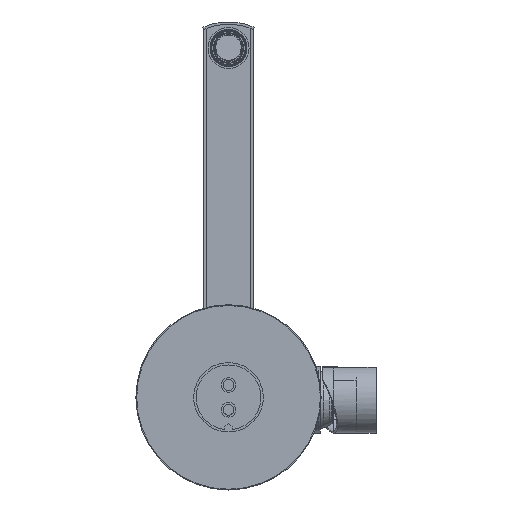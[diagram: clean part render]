
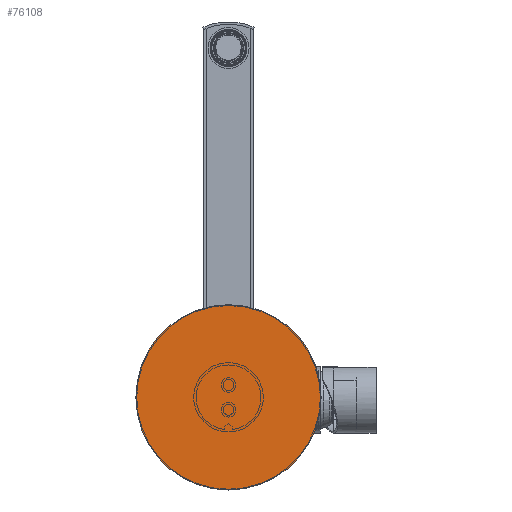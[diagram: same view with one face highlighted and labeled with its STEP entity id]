
A CAD part, top view. The second image highlights one B-rep face of the part: STEP entity #76108.
In plain terms, the highlighted planar face has unit normal (0, 0, 1).
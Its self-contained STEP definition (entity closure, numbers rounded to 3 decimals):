
#19052=CARTESIAN_POINT('',(0.,0.,765.));
#19053=DIRECTION('',(0.,0.,-1.));
#19054=DIRECTION('',(-1.,0.,0.));
#19055=AXIS2_PLACEMENT_3D('',#19052,#19053,#19054);
#19057=CARTESIAN_POINT('',(0.,0.,765.));
#19058=DIRECTION('',(0.,0.,-1.));
#19059=DIRECTION('',(1.,0.,0.));
#19060=AXIS2_PLACEMENT_3D('',#19057,#19058,#19059);
#54248=CARTESIAN_POINT('',(-60.,0.,765.));
#54249=CARTESIAN_POINT('',(60.,0.,765.));
#54250=VERTEX_POINT('',#54248);
#54251=VERTEX_POINT('',#54249);
#76099=CARTESIAN_POINT('',(0.,0.,765.));
#76100=DIRECTION('',(0.,0.,1.));
#76101=DIRECTION('',(0.,-1.,0.));
#76102=AXIS2_PLACEMENT_3D('',#76099,#76100,#76101);
#76103=PLANE('',#76102);
#76104=ORIENTED_EDGE('',*,*,#76079,.T.);
#76105=ORIENTED_EDGE('',*,*,#76093,.T.);
#76106=EDGE_LOOP('',(#76104,#76105));
#76107=FACE_OUTER_BOUND('',#76106,.F.);
#76108=ADVANCED_FACE('',(#76107),#76103,.T.);
#19056=CIRCLE('',#19055,60.);
#19061=CIRCLE('',#19060,60.);
#76079=EDGE_CURVE('',#54250,#54251,#19056,.T.);
#76093=EDGE_CURVE('',#54251,#54250,#19061,.T.);
